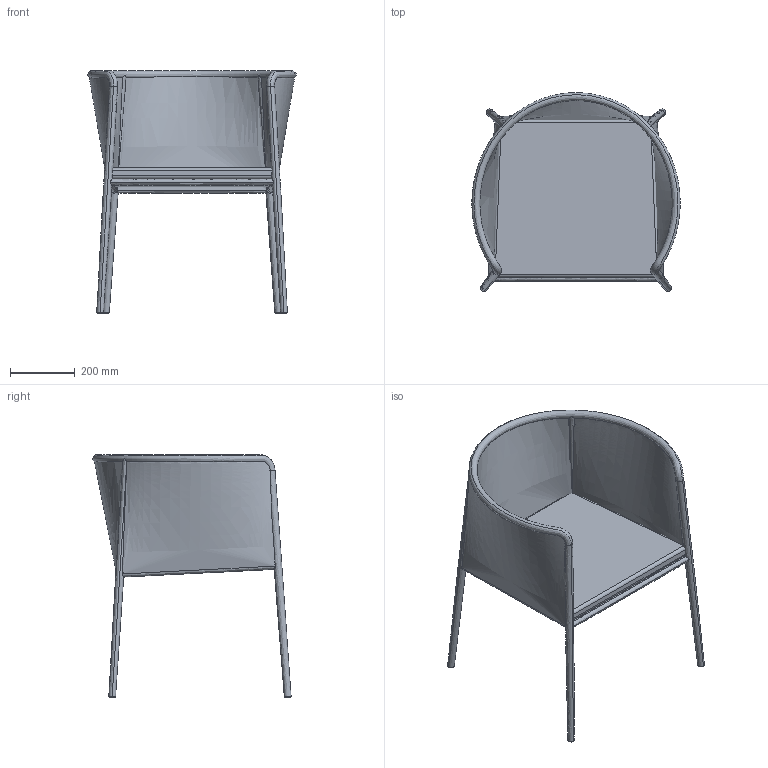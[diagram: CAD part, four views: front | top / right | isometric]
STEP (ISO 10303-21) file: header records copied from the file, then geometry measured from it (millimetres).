
FILE_DESCRIPTION(/* description */ (''),/* implementation_level */ '2;1');
FILE_NAME(/* name */ 'KINOSH~1',/* time_stamp */ '2019-07-24T11:27:44+09:00',/* author */ (''),/* organization */ (''),/* preprocessor_version */ 'ST-DEVELOPER v15',/* originating_system */ '',/* authorisation */ '');
FILE_SCHEMA (('AUTOMOTIVE_DESIGN'));
Length unit declared in the file: millimetre
Products named in the file (1): Document
Bounding box: 643.82 x 612.79 x 750 mm (x, y, z)
Volume: 10934436.5 mm3; surface area: 2178719.8 mm2
Topology: 2 solids, 9 shells, 63 faces, 176 edges, 116 vertices
Faces by surface type: bspline 52, plane 11
Entity records: 81378 total; most frequent: CARTESIAN_POINT 80388, ORIENTED_EDGE 328, EDGE_CURVE 176, VERTEX_POINT 116, B_SPLINE_CURVE_WITH_KNOTS 88, ADVANCED_FACE 63, FACE_OUTER_BOUND 63, EDGE_LOOP 63
